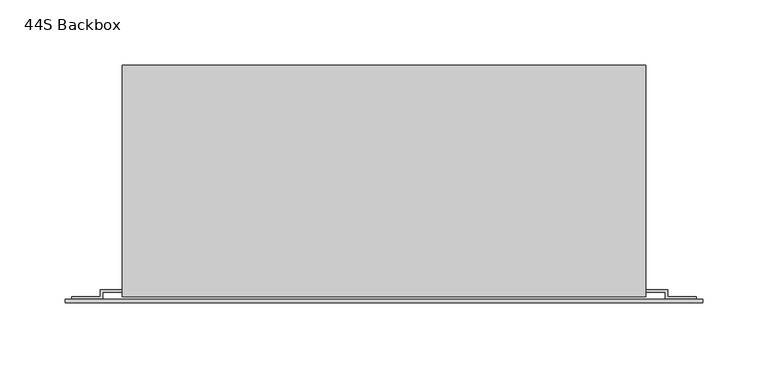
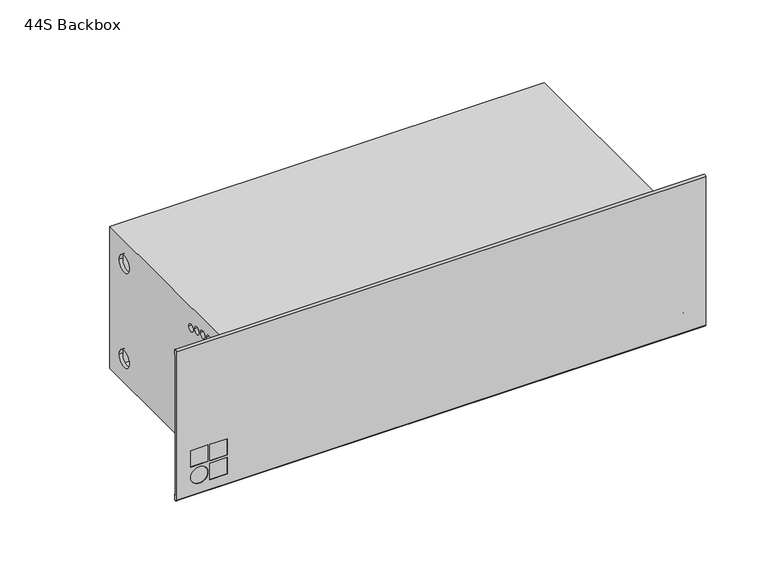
"""IFC4 building model written with IfcOpenShell, lengths in millimetres: proxy geometry, d&b xS-Series 44S Backbox : 44S Backbox."""

from ifc_helpers import new_model, si_unit, point, frame, frame_2d, origin, place, context, project, spatial, polyline, circle_curve, trimmed, segment, composite_curve, outline, extrude, source, transform, mapped, element, save
from ifc_brep_helpers import plane_surface, cylinder_surface, revolved_surface, advanced_brep


def proxy_44s_backbox_da645d2b(model_context):
    return source(origin(), model_context, "Body", "SolidModel", [
        advanced_brep(
        [(201.0, -90.5, 69.5), (201.0, -90.5, 66.5), (201.0, 84.5, 66.5), (201.0, 84.5, -66.5), (201.0, -90.5, -66.5), (201.0, -90.5, -69.5), (201.0, 87.5, -69.5), (201.0, 87.5, 69.5), (-201.0, -90.5, 69.5), (-201.0, 87.5, 69.5), (-201.0, 87.5, -69.5), (-201.0, -90.5, -69.5), (-201.0, -90.5, -66.5), (-201.0, -85.0, -66.5), (-201.0, -85.0, 66.5), (-201.0, -90.5, 66.5), (-201.0, 56.5, 46.5), (-201.0, 72.5, 46.5), (-201.0, 56.5, -46.5), (-201.0, 72.5, -46.5), (-201.0, -46.0357641, 48.8058809), (-201.0, -39.0357641, 48.8058809), (-201.0, -55.271086, 51.7177667), (-201.0, -48.271086, 51.7177667), (-201.0, -64.7250523, 53.8136606), (-201.0, -57.7250523, 53.8136606), (-201.0, -74.3257126, 55.0776115), (-201.0, -67.3257126, 55.0776115), (-201.0, -84.0, -55.5), (-201.0, -77.0, -55.5), (-201.0, -74.3257126, -55.0776115), (-201.0, -67.3257126, -55.0776115), (-201.0, -64.7250523, -53.8136606), (-201.0, -57.7250523, -53.8136606), (-201.0, -55.271086, -51.7177667), (-201.0, -48.271086, -51.7177667), (-201.0, -46.0357641, -48.8058809), (-201.0, -39.0357641, -48.8058809), (-198.0, -85.0, 66.5), (-198.0, 84.5, 66.5), (-198.0, 84.5, -66.5), (-198.0, -85.0, -66.5), (-198.0, 56.5, 46.5), (-198.0, 72.5, 46.5), (-198.0, 56.5, -46.5), (-198.0, 72.5, -46.5), (-198.0, -46.0357641, 48.8058809), (-198.0, -39.0357641, 48.8058809), (-198.0, -55.271086, 51.7177667), (-198.0, -48.271086, 51.7177667), (-198.0, -64.7250523, 53.8136606), (-198.0, -57.7250523, 53.8136606), (-198.0, -74.3257126, 55.0776115), (-198.0, -67.3257126, 55.0776115), (-198.0, -84.0, -55.5), (-198.0, -77.0, -55.5), (-198.0, -74.3257126, -55.0776115), (-198.0, -67.3257126, -55.0776115), (-198.0, -64.7250523, -53.8136606), (-198.0, -57.7250523, -53.8136606), (-198.0, -55.271086, -51.7177667), (-198.0, -48.271086, -51.7177667), (-198.0, -46.0357641, -48.8058809), (-198.0, -39.0357641, -48.8058809)],
        [
            (0, 1),
            (1, 2),
            (2, 3),
            (3, 4),
            (4, 5),
            (5, 6),
            (6, 7),
            (7, 0),
            (8, 9),
            (9, 10),
            (10, 11),
            (11, 12),
            (12, 13),
            (13, 14),
            (14, 15),
            (15, 8),
            (16, 17, circle_curve(frame((-201.0, 64.5, 46.5), z_axis=(1.0, 0.0, 0.0), x_axis=(0.0, 1.0, 0.0)), 8.0)),
            (17, 16, circle_curve(frame((-201.0, 64.5, 46.5), z_axis=(1.0, 0.0, 0.0), x_axis=(0.0, 1.0, 0.0)), 8.0)),
            (18, 19, circle_curve(frame((-201.0, 64.5, -46.5), z_axis=(1.0, 0.0, 0.0), x_axis=(0.0, 1.0, 0.0)), 8.0)),
            (19, 18, circle_curve(frame((-201.0, 64.5, -46.5), z_axis=(1.0, 0.0, 0.0), x_axis=(0.0, 1.0, 0.0)), 8.0)),
            (20, 21, circle_curve(frame((-201.0, -42.5357641, 48.8058809), z_axis=(1.0, 0.0, 0.0), x_axis=(0.0, 1.0, 0.0)), 3.5)),
            (21, 20, circle_curve(frame((-201.0, -42.5357641, 48.8058809), z_axis=(1.0, 0.0, 0.0), x_axis=(0.0, 1.0, 0.0)), 3.5)),
            (22, 23, circle_curve(frame((-201.0, -51.771086, 51.7177667), z_axis=(1.0, 0.0, 0.0), x_axis=(0.0, 1.0, 0.0)), 3.5)),
            (23, 22, circle_curve(frame((-201.0, -51.771086, 51.7177667), z_axis=(1.0, 0.0, 0.0), x_axis=(0.0, 1.0, 0.0)), 3.5)),
            (24, 25, circle_curve(frame((-201.0, -61.2250523, 53.8136606), z_axis=(1.0, 0.0, 0.0), x_axis=(0.0, 1.0, 0.0)), 3.5)),
            (25, 24, circle_curve(frame((-201.0, -61.2250523, 53.8136606), z_axis=(1.0, 0.0, 0.0), x_axis=(0.0, 1.0, 0.0)), 3.5)),
            (26, 27, circle_curve(frame((-201.0, -70.8257126, 55.0776115), z_axis=(1.0, 0.0, 0.0), x_axis=(0.0, 1.0, 0.0)), 3.5)),
            (27, 26, circle_curve(frame((-201.0, -70.8257126, 55.0776115), z_axis=(1.0, 0.0, 0.0), x_axis=(0.0, 1.0, 0.0)), 3.5)),
            (28, 29, circle_curve(frame((-201.0, -80.5, -55.5), z_axis=(1.0, 0.0, 0.0), x_axis=(0.0, 1.0, 0.0)), 3.5)),
            (29, 28, circle_curve(frame((-201.0, -80.5, -55.5), z_axis=(1.0, 0.0, 0.0), x_axis=(0.0, 1.0, 0.0)), 3.5)),
            (30, 31, circle_curve(frame((-201.0, -70.8257126, -55.0776115), z_axis=(1.0, 0.0, 0.0), x_axis=(0.0, 1.0, 0.0)), 3.5)),
            (31, 30, circle_curve(frame((-201.0, -70.8257126, -55.0776115), z_axis=(1.0, 0.0, 0.0), x_axis=(0.0, 1.0, 0.0)), 3.5)),
            (32, 33, circle_curve(frame((-201.0, -61.2250523, -53.8136606), z_axis=(1.0, 0.0, 0.0), x_axis=(0.0, 1.0, 0.0)), 3.5)),
            (33, 32, circle_curve(frame((-201.0, -61.2250523, -53.8136606), z_axis=(1.0, 0.0, 0.0), x_axis=(0.0, 1.0, 0.0)), 3.5)),
            (34, 35, circle_curve(frame((-201.0, -51.771086, -51.7177667), z_axis=(1.0, 0.0, 0.0), x_axis=(0.0, 1.0, 0.0)), 3.5)),
            (35, 34, circle_curve(frame((-201.0, -51.771086, -51.7177667), z_axis=(1.0, 0.0, 0.0), x_axis=(0.0, 1.0, 0.0)), 3.5)),
            (36, 37, circle_curve(frame((-201.0, -42.5357641, -48.8058809), z_axis=(1.0, 0.0, 0.0), x_axis=(0.0, 1.0, 0.0)), 3.5)),
            (37, 36, circle_curve(frame((-201.0, -42.5357641, -48.8058809), z_axis=(1.0, 0.0, 0.0), x_axis=(0.0, 1.0, 0.0)), 3.5)),
            (0, 8),
            (15, 1),
            (14, 38),
            (38, 39),
            (39, 2),
            (39, 40),
            (40, 3),
            (40, 41),
            (41, 13),
            (12, 4),
            (11, 5),
            (10, 6),
            (9, 7),
            (38, 41),
            (42, 43, circle_curve(frame((-198.0, 64.5, 46.5), z_axis=(-1.0, 0.0, 0.0), x_axis=(0.0, 1.0, 0.0)), 8.0)),
            (43, 42, circle_curve(frame((-198.0, 64.5, 46.5), z_axis=(-1.0, 0.0, 0.0), x_axis=(0.0, 1.0, 0.0)), 8.0)),
            (44, 45, circle_curve(frame((-198.0, 64.5, -46.5), z_axis=(-1.0, 0.0, 0.0), x_axis=(0.0, 1.0, 0.0)), 8.0)),
            (45, 44, circle_curve(frame((-198.0, 64.5, -46.5), z_axis=(-1.0, 0.0, 0.0), x_axis=(0.0, 1.0, 0.0)), 8.0)),
            (46, 47, circle_curve(frame((-198.0, -42.5357641, 48.8058809), z_axis=(-1.0, 0.0, 0.0), x_axis=(0.0, 1.0, 0.0)), 3.5)),
            (47, 46, circle_curve(frame((-198.0, -42.5357641, 48.8058809), z_axis=(-1.0, 0.0, 0.0), x_axis=(0.0, 1.0, 0.0)), 3.5)),
            (48, 49, circle_curve(frame((-198.0, -51.771086, 51.7177667), z_axis=(-1.0, 0.0, 0.0), x_axis=(0.0, 1.0, 0.0)), 3.5)),
            (49, 48, circle_curve(frame((-198.0, -51.771086, 51.7177667), z_axis=(-1.0, 0.0, 0.0), x_axis=(0.0, 1.0, 0.0)), 3.5)),
            (50, 51, circle_curve(frame((-198.0, -61.2250523, 53.8136606), z_axis=(-1.0, 0.0, 0.0), x_axis=(0.0, 1.0, 0.0)), 3.5)),
            (51, 50, circle_curve(frame((-198.0, -61.2250523, 53.8136606), z_axis=(-1.0, 0.0, 0.0), x_axis=(0.0, 1.0, 0.0)), 3.5)),
            (52, 53, circle_curve(frame((-198.0, -70.8257126, 55.0776115), z_axis=(-1.0, 0.0, 0.0), x_axis=(0.0, 1.0, 0.0)), 3.5)),
            (53, 52, circle_curve(frame((-198.0, -70.8257126, 55.0776115), z_axis=(-1.0, 0.0, 0.0), x_axis=(0.0, 1.0, 0.0)), 3.5)),
            (54, 55, circle_curve(frame((-198.0, -80.5, -55.5), z_axis=(-1.0, 0.0, 0.0), x_axis=(0.0, 1.0, 0.0)), 3.5)),
            (55, 54, circle_curve(frame((-198.0, -80.5, -55.5), z_axis=(-1.0, 0.0, 0.0), x_axis=(0.0, 1.0, 0.0)), 3.5)),
            (56, 57, circle_curve(frame((-198.0, -70.8257126, -55.0776115), z_axis=(-1.0, 0.0, 0.0), x_axis=(0.0, 1.0, 0.0)), 3.5)),
            (57, 56, circle_curve(frame((-198.0, -70.8257126, -55.0776115), z_axis=(-1.0, 0.0, 0.0), x_axis=(0.0, 1.0, 0.0)), 3.5)),
            (58, 59, circle_curve(frame((-198.0, -61.2250523, -53.8136606), z_axis=(-1.0, 0.0, 0.0), x_axis=(0.0, 1.0, 0.0)), 3.5)),
            (59, 58, circle_curve(frame((-198.0, -61.2250523, -53.8136606), z_axis=(-1.0, 0.0, 0.0), x_axis=(0.0, 1.0, 0.0)), 3.5)),
            (60, 61, circle_curve(frame((-198.0, -51.771086, -51.7177667), z_axis=(-1.0, 0.0, 0.0), x_axis=(0.0, 1.0, 0.0)), 3.5)),
            (61, 60, circle_curve(frame((-198.0, -51.771086, -51.7177667), z_axis=(-1.0, 0.0, 0.0), x_axis=(0.0, 1.0, 0.0)), 3.5)),
            (62, 63, circle_curve(frame((-198.0, -42.5357641, -48.8058809), z_axis=(-1.0, 0.0, 0.0), x_axis=(0.0, 1.0, 0.0)), 3.5)),
            (63, 62, circle_curve(frame((-198.0, -42.5357641, -48.8058809), z_axis=(-1.0, 0.0, 0.0), x_axis=(0.0, 1.0, 0.0)), 3.5)),
            (42, 16),
            (17, 43),
            (44, 18),
            (19, 45),
            (46, 20),
            (21, 47),
            (48, 22),
            (23, 49),
            (50, 24),
            (25, 51),
            (52, 26),
            (27, 53),
            (54, 28),
            (29, 55),
            (56, 30),
            (31, 57),
            (58, 32),
            (33, 59),
            (60, 34),
            (35, 61),
            (62, 36),
            (37, 63),
        ],
        [
            plane_surface(frame((201.0, -90.5, -374.3), z_axis=(1.0, 0.0, 0.0), x_axis=(0.0, 0.0, -1.0))),
            plane_surface(frame((-201.0, -90.5, -374.3), z_axis=(-1.0, 0.0, 0.0), x_axis=(0.0, 0.0, 1.0))),
            plane_surface(frame((201.0, -90.5, 69.5), z_axis=(0.0, -1.0, 0.0), x_axis=(-1.0, 0.0, 0.0))),
            plane_surface(frame((201.0, -90.5, 66.5), z_axis=(0.0, 0.0, -1.0), x_axis=(-1.0, 0.0, 0.0))),
            plane_surface(frame((201.0, 84.5, 66.5), z_axis=(0.0, -1.0, 0.0), x_axis=(-1.0, 0.0, 0.0))),
            plane_surface(frame((201.0, 84.5, -66.5), z_axis=(0.0, 0.0, 1.0), x_axis=(-1.0, 0.0, 0.0))),
            plane_surface(frame((201.0, -90.5, -66.5), z_axis=(0.0, -1.0, 0.0), x_axis=(-1.0, 0.0, 0.0))),
            plane_surface(frame((201.0, -90.5, -69.5), z_axis=(0.0, 0.0, -1.0), x_axis=(-1.0, 0.0, 0.0))),
            plane_surface(frame((201.0, 87.5, -69.5), z_axis=(0.0, 1.0, 0.0), x_axis=(-1.0, 0.0, 0.0))),
            plane_surface(frame((201.0, 87.5, 69.5), z_axis=(0.0, 0.0, 1.0), x_axis=(-1.0, 0.0, 0.0))),
            plane_surface(frame((-198.0, -85.0, 69.5), z_axis=(1.0, 0.0, 0.0), x_axis=(0.0, 0.0, -1.0))),
            plane_surface(frame((-198.0, -85.0, 66.5), z_axis=(0.0, -1.0, 0.0), x_axis=(-1.0, 0.0, 0.0))),
            revolved_surface(polyline([(-201.0, 72.5, 46.5), (-198.0, 72.5, 46.5)]), (-201.0, 64.5, 46.5), (-1.0, 0.0, 0.0)),
            revolved_surface(polyline([(-201.0, 72.5, -46.5), (-198.0, 72.5, -46.5)]), (-201.0, 64.5, -46.5), (-1.0, 0.0, 0.0)),
            revolved_surface(polyline([(-201.0, -39.0357641, 48.8058809), (-198.0, -39.0357641, 48.8058809)]), (-201.0, -42.5357641, 48.8058809), (-1.0, 0.0, 0.0)),
            revolved_surface(polyline([(-201.0, -48.271086, 51.7177667), (-198.0, -48.271086, 51.7177667)]), (-201.0, -51.771086, 51.7177667), (-1.0, 0.0, 0.0)),
            revolved_surface(polyline([(-201.0, -57.7250523, 53.8136606), (-198.0, -57.7250523, 53.8136606)]), (-201.0, -61.2250523, 53.8136606), (-1.0, 0.0, 0.0)),
            revolved_surface(polyline([(-201.0, -67.3257126, 55.0776115), (-198.0, -67.3257126, 55.0776115)]), (-201.0, -70.8257126, 55.0776115), (-1.0, 0.0, 0.0)),
            revolved_surface(polyline([(-201.0, -77.0, -55.5), (-198.0, -77.0, -55.5)]), (-201.0, -80.5, -55.5), (-1.0, 0.0, 0.0)),
            revolved_surface(polyline([(-201.0, -67.3257126, -55.0776115), (-198.0, -67.3257126, -55.0776115)]), (-201.0, -70.8257126, -55.0776115), (-1.0, 0.0, 0.0)),
            revolved_surface(polyline([(-201.0, -57.7250523, -53.8136606), (-198.0, -57.7250523, -53.8136606)]), (-201.0, -61.2250523, -53.8136606), (-1.0, 0.0, 0.0)),
            revolved_surface(polyline([(-201.0, -48.271086, -51.7177667), (-198.0, -48.271086, -51.7177667)]), (-201.0, -51.771086, -51.7177667), (-1.0, 0.0, 0.0)),
            revolved_surface(polyline([(-201.0, -39.0357641, -48.8058809), (-198.0, -39.0357641, -48.8058809)]), (-201.0, -42.5357641, -48.8058809), (-1.0, 0.0, 0.0)),
        ],
        [
            (0, [[1, 2, 3, 4, 5, 6, 7, 8]]),
            (1, [[9, 10, 11, 12, 13, 14, 15, 16], [17, 18], [19, 20], [21, 22], [23, 24], [25, 26], [27, 28], [29, 30], [31, 32], [33, 34], [35, 36], [37, 38]]),
            (2, [[-1, 39, -16, 40]]),
            (3, [[-2, -40, -15, 41, 42, 43]]),
            (4, [[-3, -43, 44, 45]]),
            (5, [[-4, -45, 46, 47, -13, 48]]),
            (6, [[-5, -48, -12, 49]]),
            (7, [[-6, -49, -11, 50]]),
            (8, [[-7, -50, -10, 51]]),
            (9, [[-8, -51, -9, -39]]),
            (10, [[52, -46, -44, -42], [53, 54], [55, 56], [57, 58], [59, 60], [61, 62], [63, 64], [65, 66], [67, 68], [69, 70], [71, 72], [73, 74]]),
            (11, [[-52, -41, -14, -47]]),
            (12, [[-53, 75, -18, 76]]),
            (12, [[-54, -76, -17, -75]]),
            (13, [[-55, 77, -20, 78]]),
            (13, [[-56, -78, -19, -77]]),
            (14, [[-57, 79, -22, 80]]),
            (14, [[-58, -80, -21, -79]]),
            (15, [[-59, 81, -24, 82]]),
            (15, [[-60, -82, -23, -81]]),
            (16, [[-61, 83, -26, 84]]),
            (16, [[-62, -84, -25, -83]]),
            (17, [[-63, 85, -28, 86]]),
            (17, [[-64, -86, -27, -85]]),
            (18, [[-65, 87, -30, 88]]),
            (18, [[-66, -88, -29, -87]]),
            (19, [[-67, 89, -32, 90]]),
            (19, [[-68, -90, -31, -89]]),
            (20, [[-69, 91, -34, 92]]),
            (20, [[-70, -92, -33, -91]]),
            (21, [[-71, 93, -36, 94]]),
            (21, [[-72, -94, -35, -93]]),
            (22, [[-73, 95, -38, 96]]),
            (22, [[-74, -96, -37, -95]]),
        ],
    ),
        advanced_brep(
        [(216.0, -92.5, 62.5), (240.0, -92.5, 62.5), (240.0, -90.5, 62.5), (218.0, -90.5, 62.5), (218.0, -85.0, 62.5), (198.0, -85.0, 62.5), (198.0, -87.0, 62.5), (216.0, -87.0, 62.5), (216.0, -92.5, -62.5), (216.0, -87.0, -62.5), (198.0, -87.0, -62.5), (198.0, -85.0, -62.5), (218.0, -85.0, -62.5), (218.0, -90.5, -62.5), (240.0, -90.5, -62.5), (240.0, -92.5, -62.5), (236.0, -90.5, 52.5), (225.0, -90.5, 52.5), (236.0, -90.5, -52.5), (225.0, -90.5, -52.5), (225.0, -92.5, 52.5), (236.0, -92.5, 52.5), (225.0, -92.5, -52.5), (236.0, -92.5, -52.5)],
        [
            (0, 1),
            (1, 2),
            (2, 3),
            (3, 4),
            (4, 5),
            (5, 6),
            (6, 7),
            (7, 0),
            (8, 9),
            (9, 10),
            (10, 11),
            (11, 12),
            (12, 13),
            (13, 14),
            (14, 15),
            (15, 8),
            (7, 9),
            (8, 0),
            (6, 10),
            (5, 11),
            (4, 12),
            (3, 13),
            (2, 14),
            (16, 17, circle_curve(frame((230.5, -90.5, 52.5), z_axis=(0.0, -1.0, 0.0), x_axis=(-1.0, 0.0, 0.0)), 5.5)),
            (17, 16, circle_curve(frame((230.5, -90.5, 52.5), z_axis=(0.0, -1.0, 0.0), x_axis=(-1.0, 0.0, 0.0)), 5.5)),
            (18, 19, circle_curve(frame((230.5, -90.5, -52.5), z_axis=(0.0, -1.0, 0.0), x_axis=(-1.0, 0.0, 0.0)), 5.5)),
            (19, 18, circle_curve(frame((230.5, -90.5, -52.5), z_axis=(0.0, -1.0, 0.0), x_axis=(-1.0, 0.0, 0.0)), 5.5)),
            (1, 15),
            (20, 21, circle_curve(frame((230.5, -92.5, 52.5), z_axis=(0.0, 1.0, 0.0), x_axis=(-1.0, 0.0, 0.0)), 5.5)),
            (21, 20, circle_curve(frame((230.5, -92.5, 52.5), z_axis=(0.0, 1.0, 0.0), x_axis=(-1.0, 0.0, 0.0)), 5.5)),
            (22, 23, circle_curve(frame((230.5, -92.5, -52.5), z_axis=(0.0, 1.0, 0.0), x_axis=(-1.0, 0.0, 0.0)), 5.5)),
            (23, 22, circle_curve(frame((230.5, -92.5, -52.5), z_axis=(0.0, 1.0, 0.0), x_axis=(-1.0, 0.0, 0.0)), 5.5)),
            (20, 17),
            (16, 21),
            (22, 19),
            (18, 23),
        ],
        [
            plane_surface(frame((240.0, -92.5, 62.5), z_axis=(0.0, 0.0, 1.0), x_axis=(1.0, 0.0, 0.0))),
            plane_surface(frame((240.0, -92.5, -62.5), z_axis=(0.0, 0.0, -1.0), x_axis=(-1.0, 0.0, 0.0))),
            plane_surface(frame((216.0, -87.0, 62.5), z_axis=(-1.0, 0.0, 0.0), x_axis=(0.0, 0.0, -1.0))),
            plane_surface(frame((198.0, -87.0, 62.5), z_axis=(0.0, -1.0, 0.0), x_axis=(0.0, 0.0, -1.0))),
            plane_surface(frame((198.0, -85.0, 62.5), z_axis=(-1.0, 0.0, 0.0), x_axis=(0.0, 0.0, -1.0))),
            plane_surface(frame((218.0, -85.0, 62.5), z_axis=(0.0, 1.0, 0.0), x_axis=(0.0, 0.0, -1.0))),
            plane_surface(frame((218.0, -90.5, 62.5), z_axis=(1.0, 0.0, 0.0), x_axis=(0.0, 0.0, -1.0))),
            plane_surface(frame((240.0, -90.5, 62.5), z_axis=(0.0, 1.0, 0.0), x_axis=(0.0, 0.0, -1.0))),
            plane_surface(frame((240.0, -92.5, 62.5), z_axis=(1.0, 0.0, 0.0), x_axis=(0.0, 0.0, -1.0))),
            plane_surface(frame((216.0, -92.5, 62.5), z_axis=(0.0, -1.0, 0.0), x_axis=(0.0, 0.0, -1.0))),
            revolved_surface(polyline([(225.0, -92.5, 52.5), (225.0, -90.5, 52.5)]), (230.5, -90.5, 52.5), (0.0, -1.0, 0.0)),
            revolved_surface(polyline([(225.0, -92.5, -52.5), (225.0, -90.5, -52.5)]), (230.5, -90.5, -52.5), (0.0, -1.0, 0.0)),
        ],
        [
            (0, [[1, 2, 3, 4, 5, 6, 7, 8]]),
            (1, [[9, 10, 11, 12, 13, 14, 15, 16]]),
            (2, [[-8, 17, -9, 18]]),
            (3, [[-7, 19, -10, -17]]),
            (4, [[-6, 20, -11, -19]]),
            (5, [[-5, 21, -12, -20]]),
            (6, [[-4, 22, -13, -21]]),
            (7, [[-3, 23, -14, -22], [24, 25], [26, 27]]),
            (8, [[-2, 28, -15, -23]]),
            (9, [[-1, -18, -16, -28], [29, 30], [31, 32]]),
            (10, [[33, -24, 34, -29]]),
            (10, [[-33, -30, -34, -25]]),
            (11, [[35, -26, 36, -31]]),
            (11, [[-35, -32, -36, -27]]),
        ],
    ),
        advanced_brep(
        [(-216.0, -92.5, 62.5), (-216.0, -87.0, 62.5), (-198.0, -87.0, 62.5), (-198.0, -85.0, 62.5), (-218.0, -85.0, 62.5), (-218.0, -90.5, 62.5), (-240.0, -90.5, 62.5), (-240.0, -92.5, 62.5), (-216.0, -92.5, -62.5), (-240.0, -92.5, -62.5), (-240.0, -90.5, -62.5), (-218.0, -90.5, -62.5), (-218.0, -85.0, -62.5), (-198.0, -85.0, -62.5), (-198.0, -87.0, -62.5), (-216.0, -87.0, -62.5), (-236.0, -90.5, 52.5), (-225.0, -90.5, 52.5), (-236.0, -90.5, -52.5), (-225.0, -90.5, -52.5), (-225.0, -92.5, 52.5), (-236.0, -92.5, 52.5), (-225.0, -92.5, -52.5), (-236.0, -92.5, -52.5)],
        [
            (0, 1),
            (1, 2),
            (2, 3),
            (3, 4),
            (4, 5),
            (5, 6),
            (6, 7),
            (7, 0),
            (8, 9),
            (9, 10),
            (10, 11),
            (11, 12),
            (12, 13),
            (13, 14),
            (14, 15),
            (15, 8),
            (0, 8),
            (15, 1),
            (14, 2),
            (13, 3),
            (12, 4),
            (11, 5),
            (10, 6),
            (16, 17, circle_curve(frame((-230.5, -90.5, 52.5), z_axis=(0.0, -1.0, 0.0), x_axis=(1.0, 0.0, 0.0)), 5.5)),
            (17, 16, circle_curve(frame((-230.5, -90.5, 52.5), z_axis=(0.0, -1.0, 0.0), x_axis=(1.0, 0.0, 0.0)), 5.5)),
            (18, 19, circle_curve(frame((-230.5, -90.5, -52.5), z_axis=(0.0, -1.0, 0.0), x_axis=(1.0, 0.0, 0.0)), 5.5)),
            (19, 18, circle_curve(frame((-230.5, -90.5, -52.5), z_axis=(0.0, -1.0, 0.0), x_axis=(1.0, 0.0, 0.0)), 5.5)),
            (9, 7),
            (20, 21, circle_curve(frame((-230.5, -92.5, 52.5), z_axis=(0.0, 1.0, 0.0), x_axis=(1.0, 0.0, 0.0)), 5.5)),
            (21, 20, circle_curve(frame((-230.5, -92.5, 52.5), z_axis=(0.0, 1.0, 0.0), x_axis=(1.0, 0.0, 0.0)), 5.5)),
            (22, 23, circle_curve(frame((-230.5, -92.5, -52.5), z_axis=(0.0, 1.0, 0.0), x_axis=(1.0, 0.0, 0.0)), 5.5)),
            (23, 22, circle_curve(frame((-230.5, -92.5, -52.5), z_axis=(0.0, 1.0, 0.0), x_axis=(1.0, 0.0, 0.0)), 5.5)),
            (20, 17),
            (16, 21),
            (22, 19),
            (18, 23),
        ],
        [
            plane_surface(frame((-216.0, -90.0, 62.5), z_axis=(0.0, 0.0, 1.0), x_axis=(0.0, 1.0, 0.0))),
            plane_surface(frame((-216.0, -90.0, -62.5), z_axis=(0.0, 0.0, -1.0), x_axis=(0.0, -1.0, 0.0))),
            plane_surface(frame((-216.0, -92.5, 62.5), z_axis=(1.0, 0.0, 0.0), x_axis=(0.0, 0.0, -1.0))),
            plane_surface(frame((-216.0, -87.0, 62.5), z_axis=(0.0, -1.0, 0.0), x_axis=(0.0, 0.0, -1.0))),
            plane_surface(frame((-198.0, -87.0, 62.5), z_axis=(1.0, 0.0, 0.0), x_axis=(0.0, 0.0, -1.0))),
            plane_surface(frame((-198.0, -85.0, 62.5), z_axis=(0.0, 1.0, 0.0), x_axis=(0.0, 0.0, -1.0))),
            plane_surface(frame((-218.0, -85.0, 62.5), z_axis=(-1.0, 0.0, 0.0), x_axis=(0.0, 0.0, -1.0))),
            plane_surface(frame((-218.0, -90.5, 62.5), z_axis=(0.0, 1.0, 0.0), x_axis=(0.0, 0.0, -1.0))),
            plane_surface(frame((-240.0, -90.5, 62.5), z_axis=(-1.0, 0.0, 0.0), x_axis=(0.0, 0.0, -1.0))),
            plane_surface(frame((-240.0, -92.5, 62.5), z_axis=(0.0, -1.0, 0.0), x_axis=(0.0, 0.0, -1.0))),
            revolved_surface(polyline([(-225.0, -92.5, 52.5), (-225.0, -90.5, 52.5)]), (-230.5, -90.5, 52.5), (0.0, -1.0, 0.0)),
            revolved_surface(polyline([(-225.0, -92.5, -52.5), (-225.0, -90.5, -52.5)]), (-230.5, -90.5, -52.5), (0.0, -1.0, 0.0)),
        ],
        [
            (0, [[1, 2, 3, 4, 5, 6, 7, 8]]),
            (1, [[9, 10, 11, 12, 13, 14, 15, 16]]),
            (2, [[-1, 17, -16, 18]]),
            (3, [[-2, -18, -15, 19]]),
            (4, [[-3, -19, -14, 20]]),
            (5, [[-4, -20, -13, 21]]),
            (6, [[-5, -21, -12, 22]]),
            (7, [[-6, -22, -11, 23], [24, 25], [26, 27]]),
            (8, [[-7, -23, -10, 28]]),
            (9, [[-8, -28, -9, -17], [29, 30], [31, 32]]),
            (10, [[33, -24, 34, -29]]),
            (10, [[-33, -30, -34, -25]]),
            (11, [[35, -26, 36, -31]]),
            (11, [[-35, -32, -36, -27]]),
        ],
    ),
        advanced_brep(
        [(245.0, -92.5, 72.7), (245.0, -95.1, 72.7), (245.0, -95.1, -72.7), (245.0, -92.5, -72.7), (245.0, -92.5, -68.0), (245.0, -93.85, -68.0), (245.0, -93.85, 68.0), (245.0, -92.5, 68.0), (-245.0, -92.5, 72.7), (-245.0, -92.5, 68.0), (-245.0, -93.85, 68.0), (-245.0, -93.85, -68.0), (-245.0, -92.5, -68.0), (-245.0, -92.5, -72.7), (-245.0, -95.1, -72.7), (-245.0, -95.1, 72.7), (-231.65, -95.1, -28.8926822), (-215.65, -95.1, -28.8926822), (-215.65, -95.1, -44.8926822), (-231.65, -95.1, -44.8926822), (-213.9, -95.1, -28.8926822), (-197.9, -95.1, -28.8926822), (-197.9, -95.1, -44.8926822), (-213.9, -95.1, -44.8926822), (-213.9, -95.1, -47.3390233), (-197.9, -95.1, -47.3390233), (-197.9, -95.1, -63.3390233), (-213.9, -95.1, -63.3390233), (-215.65, -95.1, -55.3390233), (-231.65, -95.1, -55.3390233), (-215.65, -93.85, -28.8926822), (-231.65, -93.85, -28.8926822), (-231.65, -93.85, -44.8926822), (-215.65, -93.85, -44.8926822), (-197.9, -93.85, -28.8926822), (-213.9, -93.85, -28.8926822), (-213.9, -93.85, -44.8926822), (-197.9, -93.85, -44.8926822), (-197.9, -93.85, -47.3390233), (-213.9, -93.85, -47.3390233), (-213.9, -93.85, -63.3390233), (-197.9, -93.85, -63.3390233), (-231.65, -93.85, -55.3390233), (-215.65, -93.85, -55.3390233)],
        [
            (0, 1, circle_curve(frame((245.0, -93.8, 72.7), z_axis=(1.0, 0.0, 0.0), x_axis=(0.0, -1.0, 0.0)), 1.3)),
            (1, 2),
            (2, 3, circle_curve(frame((245.0, -93.8, -72.7), z_axis=(1.0, 0.0, 0.0), x_axis=(0.0, -1.0, 0.0)), 1.3)),
            (3, 4),
            (4, 5),
            (5, 6),
            (6, 7),
            (7, 0),
            (8, 9),
            (9, 10),
            (10, 11),
            (11, 12),
            (12, 13),
            (13, 14, circle_curve(frame((-245.0, -93.8, -72.7), z_axis=(-1.0, 0.0, 0.0), x_axis=(0.0, -1.0, 0.0)), 1.3)),
            (14, 15),
            (15, 8, circle_curve(frame((-245.0, -93.8, 72.7), z_axis=(-1.0, 0.0, 0.0), x_axis=(0.0, -1.0, 0.0)), 1.3)),
            (0, 8),
            (15, 1),
            (14, 2),
            (16, 17),
            (17, 18),
            (18, 19),
            (19, 16),
            (20, 21),
            (21, 22),
            (22, 23),
            (23, 20),
            (24, 25),
            (25, 26),
            (26, 27),
            (27, 24),
            (28, 29, circle_curve(frame((-223.65, -95.1, -55.3390233), z_axis=(0.0, 1.0, 0.0), x_axis=(1.0, 0.0, 0.0)), 8.0)),
            (29, 28, circle_curve(frame((-223.65, -95.1, -55.3390233), z_axis=(0.0, 1.0, 0.0), x_axis=(1.0, 0.0, 0.0)), 8.0)),
            (13, 3),
            (12, 4),
            (11, 5),
            (10, 6),
            (30, 31),
            (31, 32),
            (32, 33),
            (33, 30),
            (34, 35),
            (35, 36),
            (36, 37),
            (37, 34),
            (38, 39),
            (39, 40),
            (40, 41),
            (41, 38),
            (42, 43, circle_curve(frame((-223.65, -93.85, -55.3390233), z_axis=(0.0, -1.0, 0.0), x_axis=(1.0, 0.0, 0.0)), 8.0)),
            (43, 42, circle_curve(frame((-223.65, -93.85, -55.3390233), z_axis=(0.0, -1.0, 0.0), x_axis=(1.0, 0.0, 0.0)), 8.0)),
            (9, 7),
            (16, 31),
            (30, 17),
            (19, 32),
            (18, 33),
            (20, 35),
            (34, 21),
            (23, 36),
            (22, 37),
            (24, 39),
            (38, 25),
            (27, 40),
            (26, 41),
            (28, 43),
            (42, 29),
        ],
        [
            plane_surface(frame((245.0, -95.1, 72.7), z_axis=(1.0, 0.0, 0.0), x_axis=(0.0, 0.0, -1.0))),
            plane_surface(frame((-245.0, -95.1, 72.7), z_axis=(-1.0, 0.0, 0.0), x_axis=(0.0, 0.0, 1.0))),
            cylinder_surface(frame((-245.0, -93.8, 72.7), z_axis=(1.0, 0.0, 0.0), x_axis=(0.0, -1.0, 0.0)), 1.3),
            plane_surface(frame((245.0, -95.1, 72.7), z_axis=(0.0, -1.0, 0.0), x_axis=(-1.0, 0.0, 0.0))),
            cylinder_surface(frame((-245.0, -93.8, -72.7), z_axis=(1.0, 0.0, 0.0), x_axis=(0.0, -1.0, 0.0)), 1.3),
            plane_surface(frame((245.0, -92.5, -72.7), z_axis=(0.0, 1.0, 0.0), x_axis=(-1.0, 0.0, 0.0))),
            plane_surface(frame((245.0, -92.5, -68.0), z_axis=(0.0, 0.0, 1.0), x_axis=(-1.0, 0.0, 0.0))),
            plane_surface(frame((245.0, -93.85, -68.0), z_axis=(0.0, 1.0, 0.0), x_axis=(-1.0, 0.0, 0.0))),
            plane_surface(frame((245.0, -93.85, 68.0), z_axis=(0.0, 0.0, -1.0), x_axis=(-1.0, 0.0, 0.0))),
            plane_surface(frame((245.0, -92.5, 68.0), z_axis=(0.0, 1.0, 0.0), x_axis=(-1.0, 0.0, 0.0))),
            plane_surface(frame((-215.65, -95.1, -28.8926822), z_axis=(0.0, 0.0, -1.0), x_axis=(0.0, 1.0, 0.0))),
            plane_surface(frame((-231.65, -95.1, -28.8926822), z_axis=(1.0, 0.0, 0.0), x_axis=(0.0, 1.0, 0.0))),
            plane_surface(frame((-231.65, -95.1, -44.8926822), z_axis=(0.0, 0.0, 1.0), x_axis=(0.0, 1.0, 0.0))),
            plane_surface(frame((-215.65, -95.1, -44.8926822), z_axis=(-1.0, 0.0, 0.0), x_axis=(0.0, 1.0, 0.0))),
            plane_surface(frame((-197.9, -95.1, -28.8926822), z_axis=(0.0, 0.0, -1.0), x_axis=(0.0, 1.0, 0.0))),
            plane_surface(frame((-213.9, -95.1, -28.8926822), z_axis=(1.0, 0.0, 0.0), x_axis=(0.0, 1.0, 0.0))),
            plane_surface(frame((-213.9, -95.1, -44.8926822), z_axis=(0.0, 0.0, 1.0), x_axis=(0.0, 1.0, 0.0))),
            plane_surface(frame((-197.9, -95.1, -44.8926822), z_axis=(-1.0, 0.0, 0.0), x_axis=(0.0, 1.0, 0.0))),
            plane_surface(frame((-197.9, -95.1, -47.3390233), z_axis=(0.0, 0.0, -1.0), x_axis=(0.0, 1.0, 0.0))),
            plane_surface(frame((-213.9, -95.1, -47.3390233), z_axis=(1.0, 0.0, 0.0), x_axis=(0.0, 1.0, 0.0))),
            plane_surface(frame((-213.9, -95.1, -63.3390233), z_axis=(0.0, 0.0, 1.0), x_axis=(0.0, 1.0, 0.0))),
            plane_surface(frame((-197.9, -95.1, -63.3390233), z_axis=(-1.0, 0.0, 0.0), x_axis=(0.0, 1.0, 0.0))),
            revolved_surface(polyline([(-215.65, -95.1, -55.3390233), (-215.65, -93.85, -55.3390233)]), (-223.65, -90.5, -55.3390233), (0.0, -1.0, 0.0)),
        ],
        [
            (0, [[1, 2, 3, 4, 5, 6, 7, 8]]),
            (1, [[9, 10, 11, 12, 13, 14, 15, 16]]),
            (2, [[-1, 17, -16, 18]]),
            (3, [[-2, -18, -15, 19], [20, 21, 22, 23], [24, 25, 26, 27], [28, 29, 30, 31], [32, 33]]),
            (4, [[-3, -19, -14, 34]]),
            (5, [[-4, -34, -13, 35]]),
            (6, [[-5, -35, -12, 36]]),
            (7, [[-6, -36, -11, 37], [38, 39, 40, 41], [42, 43, 44, 45], [46, 47, 48, 49], [50, 51]]),
            (8, [[-7, -37, -10, 52]]),
            (9, [[-8, -52, -9, -17]]),
            (10, [[53, -38, 54, -20]]),
            (11, [[-53, -23, 55, -39]]),
            (12, [[-55, -22, 56, -40]]),
            (13, [[-54, -41, -56, -21]]),
            (14, [[57, -42, 58, -24]]),
            (15, [[-57, -27, 59, -43]]),
            (16, [[-59, -26, 60, -44]]),
            (17, [[-58, -45, -60, -25]]),
            (18, [[61, -46, 62, -28]]),
            (19, [[-61, -31, 63, -47]]),
            (20, [[-63, -30, 64, -48]]),
            (21, [[-62, -49, -64, -29]]),
            (22, [[65, -50, 66, -32]]),
            (22, [[-65, -33, -66, -51]]),
        ],
    ),
        extrude(outline(polyline([(-215.65, -95.1), (-231.65, -95.1), (-231.65, -93.85), (-215.65, -93.85), (-215.65, -95.1)])), frame((0.0, 0.0, -44.8926822), z_axis=(0.0, 0.0, 1.0), x_axis=(1.0, 0.0, 0.0)), (0.0, 0.0, 1.0), 16.0),
        extrude(outline(polyline([(-197.9, -95.1), (-213.9, -95.1), (-213.9, -93.85), (-197.9, -93.85), (-197.9, -95.1)])), frame((0.0, 0.0, -44.8926822), z_axis=(0.0, 0.0, 1.0), x_axis=(1.0, 0.0, 0.0)), (0.0, 0.0, 1.0), 16.0),
        extrude(outline(polyline([(-197.9, -95.1), (-213.9, -95.1), (-213.9, -93.85), (-197.9, -93.85), (-197.9, -95.1)])), frame((0.0, 0.0, -63.3390233), z_axis=(0.0, 0.0, 1.0), x_axis=(1.0, 0.0, 0.0)), (0.0, 0.0, 1.0), 16.0),
        extrude(outline(composite_curve([segment(trimmed(circle_curve(frame_2d((-55.3390233, -223.65)), 8.0), [point((-55.3390233, -231.65))], [point((-55.3390233, -215.65))], False, "CARTESIAN"), True, "CONTINUOUS"), segment(trimmed(circle_curve(frame_2d((-55.3390233, -223.65)), 8.0), [point((-55.3390233, -215.65))], [point((-55.3390233, -231.65))], False, "CARTESIAN"), True, "CONTINUOUS")], self_intersect=False)), frame((0.0, -95.1, 0.0), z_axis=(0.0, 1.0, 0.0), x_axis=(0.0, 0.0, 1.0)), (0.0, 0.0, 1.0), 1.25),
    ])


if __name__ == "__main__":
    model = new_model("IFC4")
    model_context = context("Model", 3, world=origin())
    ifc_project = project(units=[si_unit("LENGTHUNIT", "METRE", prefix="MILLI")], contexts=[model_context])
    site = spatial("IfcSite", under=ifc_project)
    building = spatial("IfcBuilding", under=site)
    placement = place(None, origin())
    proxy_44s_backbox_shape = proxy_44s_backbox_da645d2b(model_context)
    element("IfcBuildingElementProxy", 1, Name="d&b xS-Series 44S Backbox : 44S Backbox", ObjectType="d&b xS-Series 44S Backbox : 44S Backbox", at=placement, inside=building, context=model_context, shape_type="MappedRepresentation", body=[
        mapped(proxy_44s_backbox_shape, transform((0.0, 0.0, 0.0), x_axis=(1.0, 0.0, 0.0), y_axis=(0.0, 1.0, 0.0), z_axis=(0.0, 0.0, 1.0))),
    ])
    save(model, "model.ifc")
